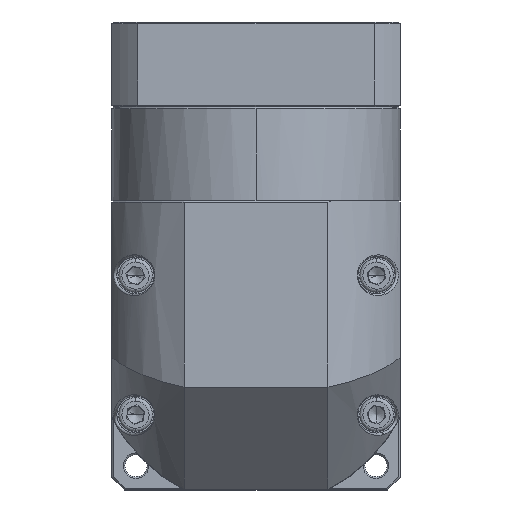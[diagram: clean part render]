
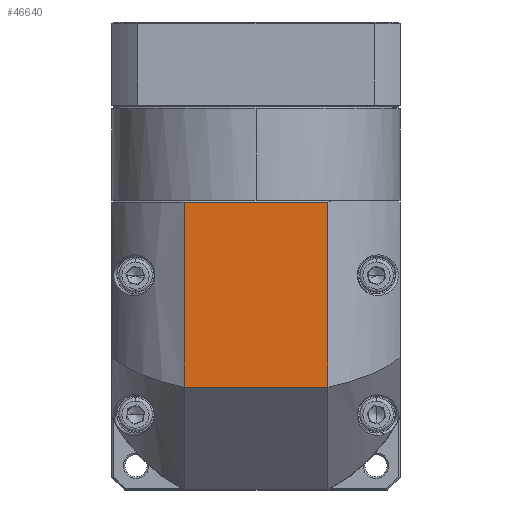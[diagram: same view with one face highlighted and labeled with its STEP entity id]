
A CAD part, top view. The second image highlights one B-rep face of the part: STEP entity #46640.
In plain terms, the highlighted planar face has unit normal (0, 0, 1).
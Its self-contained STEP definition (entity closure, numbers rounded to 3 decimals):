
#9478 = DIRECTION ( 'NONE',  ( 0., 0., 1. ) ) ;
#9569 = EDGE_CURVE ( 'NONE', #10504, #94271, #41811, .T. ) ;
#10386 = DIRECTION ( 'NONE',  ( 0., 1., 0. ) ) ;
#10504 = VERTEX_POINT ( 'NONE', #32661 ) ;
#13042 = EDGE_LOOP ( 'NONE', ( #108995, #88598, #116133, #89237 ) ) ;
#26934 = VECTOR ( 'NONE', #63216, 1000. ) ;
#31266 = CARTESIAN_POINT ( 'NONE',  ( -59.339, 78.793, 68.255 ) ) ;
#32661 = CARTESIAN_POINT ( 'NONE',  ( -80.552, 24.293, 68.255 ) ) ;
#33802 = EDGE_CURVE ( 'NONE', #99260, #10504, #132381, .T. ) ;
#38514 = VECTOR ( 'NONE', #78759, 1000. ) ;
#39198 = LINE ( 'NONE', #56999, #121945 ) ;
#41811 = LINE ( 'NONE', #131106, #38514 ) ;
#44545 = DIRECTION ( 'NONE',  ( -1., 0., 0. ) ) ;
#46640 = ADVANCED_FACE ( 'NONE', ( #117567 ), #94544, .T. ) ;
#47567 = EDGE_CURVE ( 'NONE', #137418, #99260, #39198, .T. ) ;
#56999 = CARTESIAN_POINT ( 'NONE',  ( -38.126, -21.207, 68.255 ) ) ;
#59305 = AXIS2_PLACEMENT_3D ( 'NONE', #72375, #9478, #10386 ) ;
#63216 = DIRECTION ( 'NONE',  ( -1., 0., 0. ) ) ;
#63476 = CARTESIAN_POINT ( 'NONE',  ( -38.126, 78.793, 68.255 ) ) ;
#68988 = DIRECTION ( 'NONE',  ( 0., -1., 0. ) ) ;
#72375 = CARTESIAN_POINT ( 'NONE',  ( -59.339, 36.793, 68.255 ) ) ;
#78759 = DIRECTION ( 'NONE',  ( 0., 1., 0. ) ) ;
#88598 = ORIENTED_EDGE ( 'NONE', *, *, #33802, .F. ) ;
#89237 = ORIENTED_EDGE ( 'NONE', *, *, #133700, .T. ) ;
#94271 = VERTEX_POINT ( 'NONE', #105270 ) ;
#94544 = PLANE ( 'NONE',  #59305 ) ;
#99260 = VERTEX_POINT ( 'NONE', #111347 ) ;
#101735 = LINE ( 'NONE', #31266, #26934 ) ;
#105270 = CARTESIAN_POINT ( 'NONE',  ( -80.552, 78.793, 68.255 ) ) ;
#108995 = ORIENTED_EDGE ( 'NONE', *, *, #9569, .F. ) ;
#111347 = CARTESIAN_POINT ( 'NONE',  ( -38.126, 24.293, 68.255 ) ) ;
#116133 = ORIENTED_EDGE ( 'NONE', *, *, #47567, .F. ) ;
#117456 = VECTOR ( 'NONE', #44545, 1000. ) ;
#117567 = FACE_OUTER_BOUND ( 'NONE', #13042, .T. ) ;
#120006 = CARTESIAN_POINT ( 'NONE',  ( -59.339, 24.293, 68.255 ) ) ;
#121945 = VECTOR ( 'NONE', #68988, 1000. ) ;
#131106 = CARTESIAN_POINT ( 'NONE',  ( -80.552, -21.207, 68.255 ) ) ;
#132381 = LINE ( 'NONE', #120006, #117456 ) ;
#133700 = EDGE_CURVE ( 'NONE', #137418, #94271, #101735, .T. ) ;
#137418 = VERTEX_POINT ( 'NONE', #63476 ) ;
